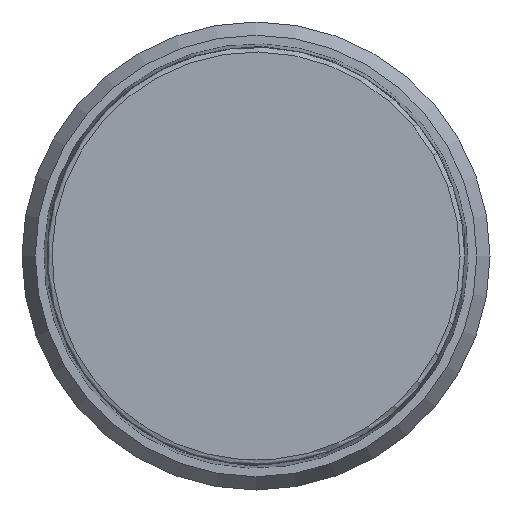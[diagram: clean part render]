
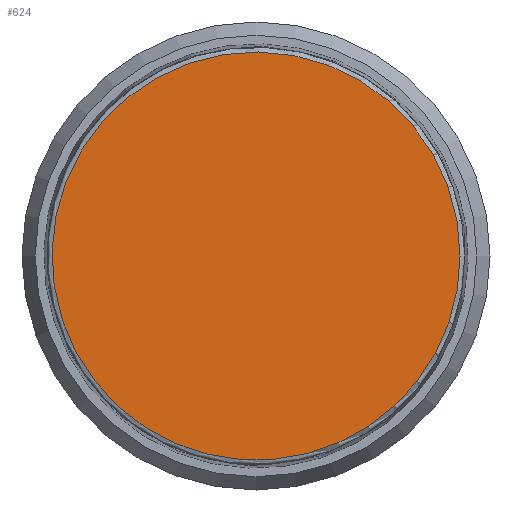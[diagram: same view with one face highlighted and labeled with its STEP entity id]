
A CAD part, left-side view. The second image highlights one B-rep face of the part: STEP entity #624.
In plain terms, the highlighted planar face has unit normal (-1, 0, 0).
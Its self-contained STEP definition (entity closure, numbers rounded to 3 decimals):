
#80=FACE_OUTER_BOUND('',#120,.T.);
#120=EDGE_LOOP('',(#517,#518));
#221=CIRCLE('',#734,13.078);
#222=CIRCLE('',#735,13.078);
#278=VERTEX_POINT('',#1159);
#279=VERTEX_POINT('',#1160);
#361=EDGE_CURVE('',#278,#279,#221,.T.);
#362=EDGE_CURVE('',#279,#278,#222,.T.);
#517=ORIENTED_EDGE('',*,*,#361,.F.);
#518=ORIENTED_EDGE('',*,*,#362,.F.);
#559=PLANE('',#733);
#624=ADVANCED_FACE('',(#80),#559,.T.);
#733=AXIS2_PLACEMENT_3D('',#1158,#934,#935);
#734=AXIS2_PLACEMENT_3D('',#1161,#936,#937);
#735=AXIS2_PLACEMENT_3D('',#1162,#938,#939);
#934=DIRECTION('center_axis',(-1.,0.,0.));
#935=DIRECTION('ref_axis',(0.,-1.,0.));
#936=DIRECTION('center_axis',(1.,0.,0.));
#937=DIRECTION('ref_axis',(0.,1.,0.));
#938=DIRECTION('center_axis',(1.,0.,0.));
#939=DIRECTION('ref_axis',(0.,1.,0.));
#1158=CARTESIAN_POINT('Origin',(-42.151,-10.426,0.));
#1159=CARTESIAN_POINT('',(-42.151,11.707,-9.719));
#1160=CARTESIAN_POINT('',(-42.151,-10.122,0.));
#1161=CARTESIAN_POINT('Origin',(-42.151,2.956,0.));
#1162=CARTESIAN_POINT('Origin',(-42.151,2.956,0.));
